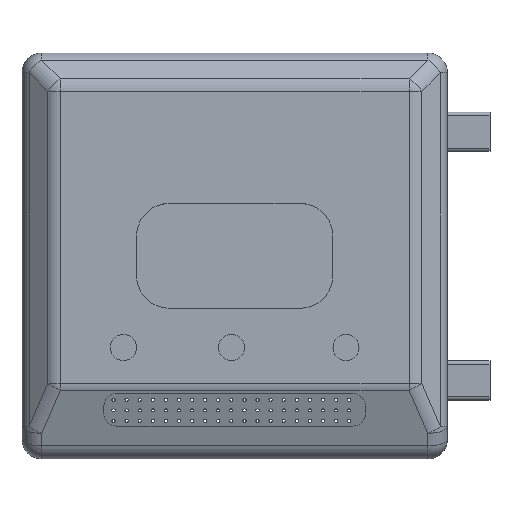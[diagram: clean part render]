
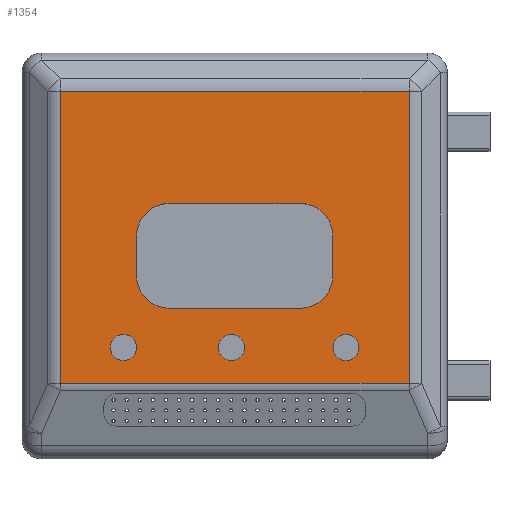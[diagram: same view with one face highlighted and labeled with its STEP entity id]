
A CAD part, top view. The second image highlights one B-rep face of the part: STEP entity #1354.
In plain terms, the highlighted planar face has unit normal (0, 0, 1).
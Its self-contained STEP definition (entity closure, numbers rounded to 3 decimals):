
#622=CIRCLE('',#7591,2.);
#623=CIRCLE('',#7592,2.);
#624=CIRCLE('',#7593,2.);
#625=CIRCLE('',#7594,5.);
#626=CIRCLE('',#7595,5.);
#627=CIRCLE('',#7596,5.);
#628=CIRCLE('',#7597,5.);
#1354=ADVANCED_FACE('',(#2908,#2909,#2910,#2911,#2912),#1606,.T.);
#1606=PLANE('',#7598);
#1960=LINE('',#27266,#2440);
#1961=LINE('',#27269,#2441);
#1962=LINE('',#27271,#2442);
#1963=LINE('',#27273,#2443);
#1964=LINE('',#27274,#2444);
#1965=LINE('',#27279,#2445);
#1966=LINE('',#27283,#2446);
#1967=LINE('',#27287,#2447);
#2440=VECTOR('',#8810,1.);
#2441=VECTOR('',#8811,1.);
#2442=VECTOR('',#8812,1.);
#2443=VECTOR('',#8813,1.);
#2444=VECTOR('',#8814,1.);
#2445=VECTOR('',#8817,1.);
#2446=VECTOR('',#8820,1.);
#2447=VECTOR('',#8823,1.);
#2908=FACE_BOUND('',#3376,.T.);
#2909=FACE_BOUND('',#3377,.T.);
#2910=FACE_BOUND('',#3378,.T.);
#2911=FACE_BOUND('',#3379,.T.);
#2912=FACE_BOUND('',#3380,.T.);
#3376=EDGE_LOOP('',(#4697));
#3377=EDGE_LOOP('',(#4698));
#3378=EDGE_LOOP('',(#4699));
#3379=EDGE_LOOP('',(#4700,#4701,#4702,#4703));
#3380=EDGE_LOOP('',(#4704,#4705,#4706,#4707,#4708,#4709,#4710,#4711));
#4697=ORIENTED_EDGE('',*,*,#6746,.T.);
#4698=ORIENTED_EDGE('',*,*,#6747,.T.);
#4699=ORIENTED_EDGE('',*,*,#6748,.T.);
#4700=ORIENTED_EDGE('',*,*,#6749,.T.);
#4701=ORIENTED_EDGE('',*,*,#6750,.T.);
#4702=ORIENTED_EDGE('',*,*,#6751,.T.);
#4703=ORIENTED_EDGE('',*,*,#6752,.T.);
#4704=ORIENTED_EDGE('',*,*,#6753,.T.);
#4705=ORIENTED_EDGE('',*,*,#6754,.T.);
#4706=ORIENTED_EDGE('',*,*,#6755,.T.);
#4707=ORIENTED_EDGE('',*,*,#6756,.T.);
#4708=ORIENTED_EDGE('',*,*,#6757,.T.);
#4709=ORIENTED_EDGE('',*,*,#6758,.T.);
#4710=ORIENTED_EDGE('',*,*,#6759,.T.);
#4711=ORIENTED_EDGE('',*,*,#6760,.T.);
#5960=VERTEX_POINT('',#27261);
#5961=VERTEX_POINT('',#27263);
#5962=VERTEX_POINT('',#27265);
#5963=VERTEX_POINT('',#27267);
#5964=VERTEX_POINT('',#27268);
#5965=VERTEX_POINT('',#27270);
#5966=VERTEX_POINT('',#27272);
#5967=VERTEX_POINT('',#27275);
#5968=VERTEX_POINT('',#27276);
#5969=VERTEX_POINT('',#27278);
#5970=VERTEX_POINT('',#27280);
#5971=VERTEX_POINT('',#27282);
#5972=VERTEX_POINT('',#27284);
#5973=VERTEX_POINT('',#27286);
#5974=VERTEX_POINT('',#27288);
#6746=EDGE_CURVE('',#5960,#5960,#622,.T.);
#6747=EDGE_CURVE('',#5961,#5961,#623,.T.);
#6748=EDGE_CURVE('',#5962,#5962,#624,.T.);
#6749=EDGE_CURVE('',#5963,#5964,#1960,.T.);
#6750=EDGE_CURVE('',#5964,#5965,#1961,.T.);
#6751=EDGE_CURVE('',#5965,#5966,#1962,.T.);
#6752=EDGE_CURVE('',#5966,#5963,#1963,.T.);
#6753=EDGE_CURVE('',#5967,#5968,#1964,.T.);
#6754=EDGE_CURVE('',#5968,#5969,#625,.T.);
#6755=EDGE_CURVE('',#5969,#5970,#1965,.T.);
#6756=EDGE_CURVE('',#5970,#5971,#626,.T.);
#6757=EDGE_CURVE('',#5971,#5972,#1966,.T.);
#6758=EDGE_CURVE('',#5972,#5973,#627,.T.);
#6759=EDGE_CURVE('',#5973,#5974,#1967,.T.);
#6760=EDGE_CURVE('',#5974,#5967,#628,.T.);
#7591=AXIS2_PLACEMENT_3D('',#27260,#8804,#8805);
#7592=AXIS2_PLACEMENT_3D('',#27262,#8806,#8807);
#7593=AXIS2_PLACEMENT_3D('',#27264,#8808,#8809);
#7594=AXIS2_PLACEMENT_3D('',#27277,#8815,#8816);
#7595=AXIS2_PLACEMENT_3D('',#27281,#8818,#8819);
#7596=AXIS2_PLACEMENT_3D('',#27285,#8821,#8822);
#7597=AXIS2_PLACEMENT_3D('',#27289,#8824,#8825);
#7598=AXIS2_PLACEMENT_3D('',#27290,#8826,#8827);
#8804=DIRECTION('',(0.,0.,-1.));
#8805=DIRECTION('',(1.,0.,0.));
#8806=DIRECTION('',(0.,0.,-1.));
#8807=DIRECTION('',(1.,0.,0.));
#8808=DIRECTION('',(0.,0.,-1.));
#8809=DIRECTION('',(1.,0.,0.));
#8810=DIRECTION('',(-1.,0.,0.));
#8811=DIRECTION('',(0.,-1.,0.));
#8812=DIRECTION('',(1.,0.,0.));
#8813=DIRECTION('',(0.,1.,0.));
#8814=DIRECTION('',(0.,-1.,0.));
#8815=DIRECTION('',(0.,0.,-1.));
#8816=DIRECTION('',(1.,0.,0.));
#8817=DIRECTION('',(-1.,0.,0.));
#8818=DIRECTION('',(0.,0.,-1.));
#8819=DIRECTION('',(1.,0.,0.));
#8820=DIRECTION('',(0.,1.,0.));
#8821=DIRECTION('',(0.,0.,-1.));
#8822=DIRECTION('',(1.,0.,0.));
#8823=DIRECTION('',(1.,0.,0.));
#8824=DIRECTION('',(0.,0.,-1.));
#8825=DIRECTION('',(1.,0.,0.));
#8826=DIRECTION('',(0.,0.,1.));
#8827=DIRECTION('',(1.,0.,0.));
#27260=CARTESIAN_POINT('',(-17.,-14.,18.));
#27261=CARTESIAN_POINT('',(-15.,-14.,18.));
#27262=CARTESIAN_POINT('',(-0.492,-14.,18.));
#27263=CARTESIAN_POINT('',(1.508,-14.,18.));
#27264=CARTESIAN_POINT('',(17.,-14.,18.));
#27265=CARTESIAN_POINT('',(19.,-14.,18.));
#27266=CARTESIAN_POINT('',(0.,25.141,18.));
#27267=CARTESIAN_POINT('',(26.641,25.141,18.));
#27268=CARTESIAN_POINT('',(-26.641,25.141,18.));
#27269=CARTESIAN_POINT('',(-26.641,0.,18.));
#27270=CARTESIAN_POINT('',(-26.641,-19.481,18.));
#27271=CARTESIAN_POINT('',(0.,-19.481,18.));
#27272=CARTESIAN_POINT('',(26.641,-19.481,18.));
#27273=CARTESIAN_POINT('',(26.641,0.,18.));
#27274=CARTESIAN_POINT('',(15.,0.,18.));
#27275=CARTESIAN_POINT('',(15.,3.,18.));
#27276=CARTESIAN_POINT('',(15.,-3.,18.));
#27277=CARTESIAN_POINT('',(10.,-3.,18.));
#27278=CARTESIAN_POINT('',(10.,-8.,18.));
#27279=CARTESIAN_POINT('',(0.,-8.,18.));
#27280=CARTESIAN_POINT('',(-10.,-8.,18.));
#27281=CARTESIAN_POINT('',(-10.,-3.,18.));
#27282=CARTESIAN_POINT('',(-15.,-3.,18.));
#27283=CARTESIAN_POINT('',(-15.,0.,18.));
#27284=CARTESIAN_POINT('',(-15.,3.,18.));
#27285=CARTESIAN_POINT('',(-10.,3.,18.));
#27286=CARTESIAN_POINT('',(-10.,8.,18.));
#27287=CARTESIAN_POINT('',(0.,8.,18.));
#27288=CARTESIAN_POINT('',(10.,8.,18.));
#27289=CARTESIAN_POINT('',(10.,3.,18.));
#27290=CARTESIAN_POINT('',(0.,0.,18.));
